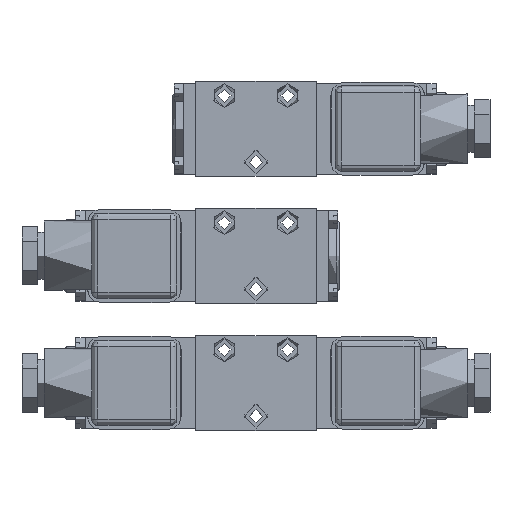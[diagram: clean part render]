
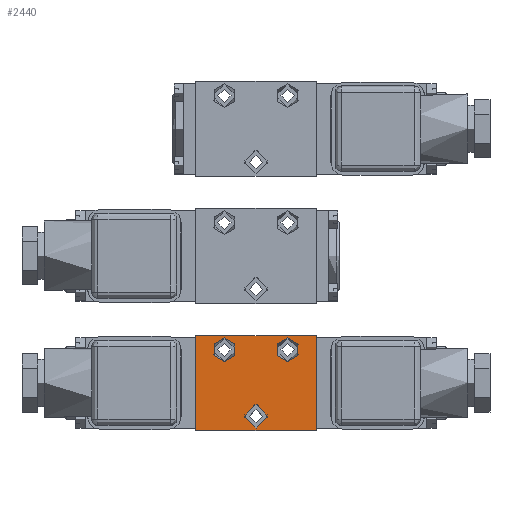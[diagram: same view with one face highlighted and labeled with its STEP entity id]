
A CAD part, top view. The second image highlights one B-rep face of the part: STEP entity #2440.
In plain terms, the highlighted planar face has unit normal (0, 0, 1).
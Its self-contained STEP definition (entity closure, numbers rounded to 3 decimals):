
#2440=ADVANCED_FACE('', (#2450,#2460,#2470,#2480), #2490, .T.);
#40840=AXIS2_PLACEMENT_3D('Ax2Pl3d', #40850, #40860, #40870);
#40880=AXIS2_PLACEMENT_3D('Ax2Pl3d', #40890, #40900, #40910);
#40920=AXIS2_PLACEMENT_3D('Ax2Pl3d', #40930, #40940, #40950);
#40960=AXIS2_PLACEMENT_3D('Ax2Pl3d', #40970, #40980, #40990);
#169270=CARTESIAN_POINT('', (38.,30.,30.));
#169280=CARTESIAN_POINT('', (38.,30.,30.));
#169290=CARTESIAN_POINT('', (38.,0.,30.));
#169420=CARTESIAN_POINT('', (0.,0.,30.));
#169430=CARTESIAN_POINT('', (0.,0.,30.));
#169440=CARTESIAN_POINT('', (0.,30.,30.));
#40850=CARTESIAN_POINT('HicPkt', (0.,0.,30.));
#169570=CARTESIAN_POINT('', (38.,0.,30.));
#169580=CARTESIAN_POINT('', (0.,30.,30.));
#40890=CARTESIAN_POINT('HicPkt', (29.,25.5,30.));
#169590=CARTESIAN_POINT('', (29.,29.25,30.));
#40930=CARTESIAN_POINT('HicPkt', (9.,25.5,30.));
#169600=CARTESIAN_POINT('', (9.,29.25,30.));
#40970=CARTESIAN_POINT('HicPkt', (19.,4.5,30.));
#169610=CARTESIAN_POINT('', (19.,8.25,30.));
#196830=CIRCLE('Circle', #40880, 3.75);
#196840=CIRCLE('Circle', #40920, 3.75);
#196850=CIRCLE('Circle', #40960, 3.75);
#278830=DIRECTION('', (0.,1.,0.));
#278860=DIRECTION('', (0.,-1.,0.));
#40860=DIRECTION('Axis', (0.,0.,1.));
#40870=DIRECTION('RefDirection', (1.,0.,0.));
#278890=DIRECTION('', (1.,0.,0.));
#278900=DIRECTION('', (-1.,0.,0.));
#40900=DIRECTION('Axis', (0.,0.,1.));
#40910=DIRECTION('RefDirection', (1.,0.,0.));
#40940=DIRECTION('Axis', (0.,0.,1.));
#40950=DIRECTION('RefDirection', (1.,0.,0.));
#40980=DIRECTION('Axis', (0.,0.,1.));
#40990=DIRECTION('RefDirection', (1.,0.,0.));
#291440=EDGE_CURVE('', #291450, #291420, #291460, .T.);
#291710=EDGE_CURVE('', #291720, #291690, #291730, .T.);
#291970=EDGE_CURVE('', #291690, #291450, #291980, .T.);
#291990=EDGE_CURVE('', #291420, #291720, #292000, .T.);
#292010=EDGE_CURVE('', #292020, #292020, #196830, .T.);
#292030=EDGE_CURVE('', #292040, #292040, #196840, .T.);
#292050=EDGE_CURVE('', #292060, #292060, #196850, .T.);
#339990=EDGE_LOOP('Edge_loop', (#340000,#340010,#340020,#340030));
#340040=EDGE_LOOP('Edge_loop', (#340050));
#340060=EDGE_LOOP('Edge_loop', (#340070));
#340080=EDGE_LOOP('Edge_loop', (#340090));
#2460=FACE_BOUND('', #340040, .T.);
#2470=FACE_BOUND('', #340060, .T.);
#2480=FACE_BOUND('', #340080, .T.);
#2450=FACE_OUTER_BOUND('Face_outer_bound', #339990, .T.);
#291460=LINE('Line', #169280, #421730);
#291730=LINE('Line', #169430, #421760);
#291980=LINE('Line', #169570, #421790);
#292000=LINE('Line', #169580, #421800);
#340000=ORIENTED_EDGE('', *, *, #291710, .T.);
#340010=ORIENTED_EDGE('', *, *, #291970, .T.);
#340020=ORIENTED_EDGE('', *, *, #291440, .T.);
#340030=ORIENTED_EDGE('', *, *, #291990, .T.);
#340050=ORIENTED_EDGE('', *, *, #292010, .F.);
#340070=ORIENTED_EDGE('', *, *, #292030, .F.);
#340090=ORIENTED_EDGE('', *, *, #292050, .F.);
#2490=PLANE('Plane', #40840);
#421730=VECTOR('', #278830, 30.);
#421760=VECTOR('', #278860, 30.);
#421790=VECTOR('', #278890, 38.);
#421800=VECTOR('', #278900, 38.);
#291420=VERTEX_POINT('', #169270);
#291450=VERTEX_POINT('', #169290);
#291690=VERTEX_POINT('', #169420);
#291720=VERTEX_POINT('', #169440);
#292020=VERTEX_POINT('', #169590);
#292040=VERTEX_POINT('', #169600);
#292060=VERTEX_POINT('', #169610);
